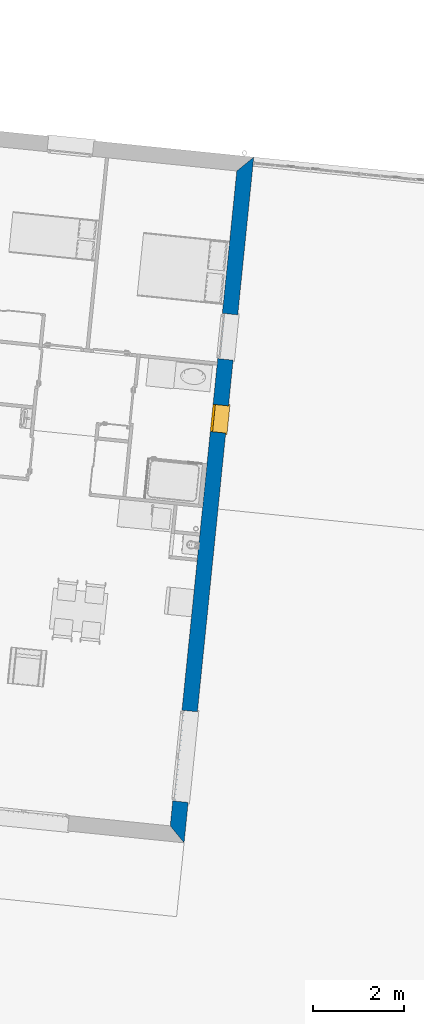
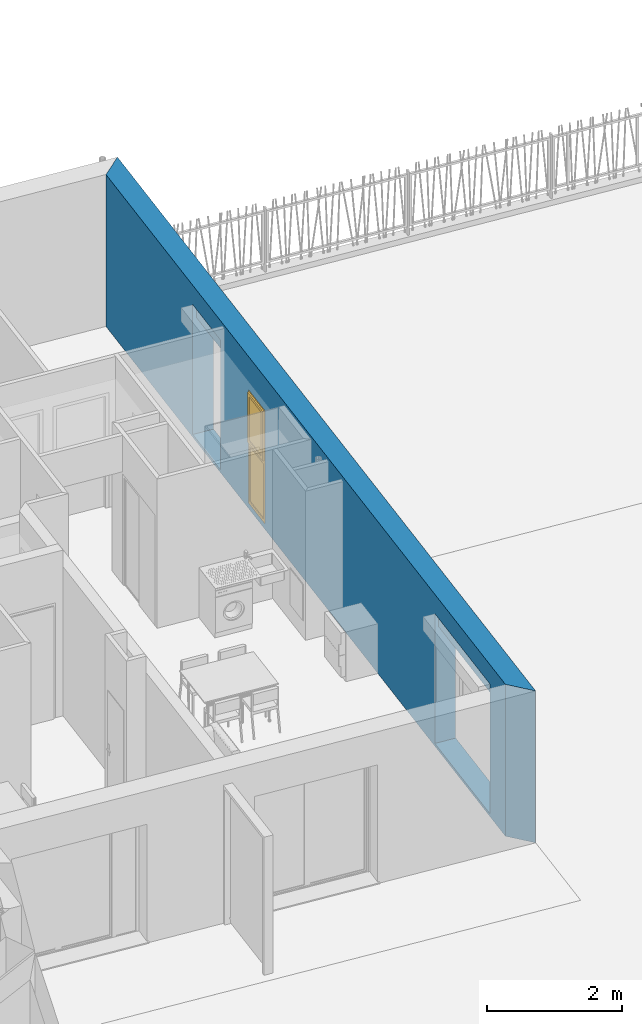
# One storey, part 76 of 171: 1 wall, 1 window, 3 openings.
"""IFC2X3 building model written with IfcOpenShell, lengths in millimetres."""

import ifcopenshell
import ifcopenshell.guid

model = None  # the IFC model being written
_history = None  # IfcOwnerHistory: only IFC2X3 demands one
_inside = {}  # id of a spatial element -> (the spatial element, [elements in it])
_under = {}  # id of a project, library or spatial element -> (it, [spatial elements below it])
_declared = {}  # id of a project -> (the project, [libraries it declares])
_typed = {}  # id of a type object -> (the type object, [elements of that type])
_made_of = {}  # id of a material, layer set ... -> (it, [elements and type objects made of it])


def new_model(schema):
    """Start an empty IFC model of exactly this schema.

    Asked for "IFC4X3", IfcOpenShell would pick the latest addendum, in which some entities
    have other attributes; the version numbers below select the first issue.
    IFC2X3 requires an IfcOwnerHistory on every rooted entity: one is made here for all.
    """
    global model, _history
    if schema == "IFC4X3":
        model = ifcopenshell.file(schema_version=(4, 3, 0, 0))
    else:
        model = ifcopenshell.file(schema=schema)
    _inside.clear()
    _under.clear()
    _declared.clear()
    _typed.clear()
    _made_of.clear()
    _history = None
    if model.schema == "IFC2X3":
        org = make("IfcOrganization", Name="unknown")
        user = make(
            "IfcPersonAndOrganization",
            ThePerson=make("IfcPerson", FamilyName="unknown"),
            TheOrganization=org,
        )
        app = make(
            "IfcApplication",
            ApplicationDeveloper=org,
            Version="unknown",
            ApplicationFullName="unknown",
            ApplicationIdentifier="unknown",
        )
        _history = make(
            "IfcOwnerHistory",
            OwningUser=user,
            OwningApplication=app,
            ChangeAction="ADDED",
            CreationDate=0,
        )
    return model


def make(cls, **values):
    """One entity of the class cls with the attributes given. An attribute that is None is left unset."""
    return model.create_entity(
        cls, **{name: value for name, value in values.items() if value is not None}
    )


def entity(cls, *values):
    """Any entity or typed value of the class cls, its attributes in the order of the schema. None: left unset."""
    e = model.create_entity(cls)
    for i, value in enumerate(values):
        if value is not None:
            e[i] = value
    return e


def rooted(cls, **values):
    """An entity with a GlobalId (a new one), such as an element, a storey or a relation."""
    return make(cls, GlobalId=ifcopenshell.guid.new(), OwnerHistory=_history, **values)


def si_unit(unit_type, name, prefix=None):
    """IfcSIUnit, for example si_unit("LENGTHUNIT", "METRE", prefix="MILLI")."""
    return make("IfcSIUnit", UnitType=unit_type, Prefix=prefix, Name=name)


def converted_unit(unit_type, name, factor, base, dimensions=None, offset=None):
    """IfcConversionBasedUnit, such as the inch: factor (a typed value) times the base unit."""
    return make(
        "IfcConversionBasedUnit"
        if offset is None
        else "IfcConversionBasedUnitWithOffset",
        ConversionOffset=offset,
        Dimensions=None
        if dimensions is None
        else entity("IfcDimensionalExponents", *dimensions),
        UnitType=unit_type,
        Name=name,
        ConversionFactor=make(
            "IfcMeasureWithUnit", ValueComponent=factor, UnitComponent=base
        ),
    )


def derived_unit(unit_type, elements):
    """IfcDerivedUnit: a product of units, each with its exponent."""
    return make(
        "IfcDerivedUnit",
        Elements=[
            make("IfcDerivedUnitElement", Unit=unit, Exponent=power)
            for unit, power in elements
        ],
        UnitType=unit_type,
    )


def money_unit(currency):
    """IfcMonetaryUnit."""
    return make("IfcMonetaryUnit", Currency=currency)


def assignment(units):
    """IfcUnitAssignment: the units of a project."""
    return None if units is None else make("IfcUnitAssignment", Units=units)


def point(xyz):
    """IfcCartesianPoint."""
    return None if xyz is None else make("IfcCartesianPoint", Coordinates=xyz)


def direction(xyz):
    """IfcDirection."""
    return None if xyz is None else make("IfcDirection", DirectionRatios=xyz)


def frame(location, z_axis=None, x_axis=None):
    """IfcAxis2Placement3D, a coordinate frame: its origin and axes. An axis left out is left unset."""
    return make(
        "IfcAxis2Placement3D",
        Location=point(location),
        Axis=direction(z_axis),
        RefDirection=direction(x_axis),
    )


def frame_2d(location, x_axis=None):
    """IfcAxis2Placement2D, a coordinate frame in the plane: its origin and x axis."""
    return make(
        "IfcAxis2Placement2D", Location=point(location), RefDirection=direction(x_axis)
    )


def origin_with_axes():
    """The frame at (0, 0, 0) with the z axis (0, 0, 1) and the x axis (1, 0, 0) written out."""
    return frame((0.0, 0.0, 0.0), z_axis=(0.0, 0.0, 1.0), x_axis=(1.0, 0.0, 0.0))


def origin_2d_with_axis():
    """The frame at (0, 0) in the plane with the x axis (1, 0) written out."""
    return frame_2d((0.0, 0.0), x_axis=(1.0, 0.0))


def place(relative_to, where):
    """IfcLocalPlacement: puts the frame where relative to a parent placement (None: the world)."""
    return make(
        "IfcLocalPlacement", PlacementRelTo=relative_to, RelativePlacement=where
    )


def context(
    kind, dimensions, precision=None, world=None, true_north=None, identifier=None
):
    """IfcGeometricRepresentationContext, for example the 3D "Model" context."""
    return make(
        "IfcGeometricRepresentationContext",
        ContextIdentifier=identifier,
        ContextType=kind,
        CoordinateSpaceDimension=dimensions,
        Precision=precision,
        WorldCoordinateSystem=world,
        TrueNorth=true_north,
    )


def subcontext(parent, identifier, kind, view, scale=None):
    """IfcGeometricRepresentationSubContext, for example "Body" below "Model"."""
    return make(
        "IfcGeometricRepresentationSubContext",
        ContextIdentifier=identifier,
        ContextType=kind,
        ParentContext=parent,
        TargetScale=scale,
        TargetView=view,
    )


def project(units=None, contexts=None):
    """IfcProject with its units and contexts."""
    return rooted(
        "IfcProject",
        Name="project",
        RepresentationContexts=contexts,
        UnitsInContext=assignment(units),
    )


def spatial(cls, under=None, at=None, **own):
    """A site, building, storey or space (cls), placed at a placement, below another one or the project."""
    s = rooted(cls, ObjectPlacement=at, **own)
    if under is not None:
        _under.setdefault(under.id(), (under, []))[1].append(s)
    return s


def polyline(points):
    """IfcPolyline through the points."""
    return make("IfcPolyline", Points=[point(p) for p in points])


def profile(cls, at=None, kind="AREA", **sizes):
    """A parametric profile (cls). Its sizes go by their IFC names, for example OverallWidth=200.0."""
    return make(cls, ProfileType=kind, Position=at, **sizes)


def rectangle(**sizes):
    """IfcRectangleProfileDef."""
    return profile("IfcRectangleProfileDef", **sizes)


def outline(outer, holes=None, kind="AREA"):
    """IfcArbitraryClosedProfileDef: a profile drawn as a closed curve; with holes, ...WithVoids."""
    if holes is None:
        return make("IfcArbitraryClosedProfileDef", ProfileType=kind, OuterCurve=outer)
    return make(
        "IfcArbitraryProfileDefWithVoids",
        ProfileType=kind,
        OuterCurve=outer,
        InnerCurves=holes,
    )


def extrude(swept, where, along, depth):
    """IfcExtrudedAreaSolid: the profile swept, set in the frame where, extruded along a direction by depth."""
    return make(
        "IfcExtrudedAreaSolid",
        SweptArea=swept,
        Position=where,
        ExtrudedDirection=direction(along),
        Depth=depth,
    )


def faces_of(points, faces, orient=None, outer=None):
    """IfcFace entities. A face is a list of loops; a loop is a list of indices into points, from 0.

    orient and outer hold one flag for each loop. By default every Orientation is true, the
    first loop of a face is its IfcFaceOuterBound and the others are IfcFaceBound.
    """
    made = []
    for i, loops in enumerate(faces):
        bounds = []
        for j, loop in enumerate(loops):
            is_outer = j == 0 if outer is None else outer[i][j]
            bounds.append(
                make(
                    "IfcFaceOuterBound" if is_outer else "IfcFaceBound",
                    Bound=make("IfcPolyLoop", Polygon=[points[k] for k in loop]),
                    Orientation=True if orient is None else orient[i][j],
                )
            )
        made.append(make("IfcFace", Bounds=bounds))
    return made


def open_shell(faces, orient=None, outer=None):
    """The faces of one IfcOpenShell. surface_model builds it on its shared points."""
    return ("IfcOpenShell", faces, orient, outer)


def faceted_brep(points, faces, orient=None, outer=None, voids=None):
    """IfcFacetedBrep: a solid bounded by flat faces; with voids (closed shells), ...WithVoids."""
    shared = [point(p) for p in points]
    hull = make("IfcClosedShell", CfsFaces=faces_of(shared, faces, orient, outer))
    if voids is None:
        return make("IfcFacetedBrep", Outer=hull)
    return make(
        "IfcFacetedBrepWithVoids",
        Outer=hull,
        Voids=[
            make(cls, CfsFaces=faces_of(shared, fs, o, b)) for cls, fs, o, b in voids
        ],
    )


def surface_model(cls, points, shells):
    """IfcFaceBasedSurfaceModel or IfcShellBasedSurfaceModel (cls): surfaces that need not close."""
    shared = [point(p) for p in points]
    made = [make(c, CfsFaces=faces_of(shared, fs, o, b)) for c, fs, o, b in shells]
    if cls == "IfcFaceBasedSurfaceModel":
        return make(cls, FbsmFaces=made)
    return make(cls, SbsmBoundary=made)


def shape(context_of_items, identifier, shape_type, items):
    """IfcShapeRepresentation: the items that make up one representation, for example the "Body"."""
    return make(
        "IfcShapeRepresentation",
        ContextOfItems=context_of_items,
        RepresentationIdentifier=identifier,
        RepresentationType=shape_type,
        Items=items,
    )


def source(mapping_origin, context_of_items, identifier, shape_type, items):
    """IfcRepresentationMap: a shape defined once, which mapped items show again and again."""
    return make(
        "IfcRepresentationMap",
        MappingOrigin=mapping_origin,
        MappedRepresentation=shape(context_of_items, identifier, shape_type, items),
    )


def transform(
    local_origin,
    x_axis=None,
    y_axis=None,
    z_axis=None,
    scale=None,
    scale2=None,
    scale3=None,
    uniform=True,
):
    """IfcCartesianTransformationOperator3D, or its non-uniform kind. x_axis, y_axis, z_axis: its Axis1, 2, 3."""
    if uniform:
        return make(
            "IfcCartesianTransformationOperator3D",
            Axis1=direction(x_axis),
            Axis2=direction(y_axis),
            LocalOrigin=point(local_origin),
            Scale=scale,
            Axis3=direction(z_axis),
        )
    return make(
        "IfcCartesianTransformationOperator3DnonUniform",
        Axis1=direction(x_axis),
        Axis2=direction(y_axis),
        LocalOrigin=point(local_origin),
        Scale=scale,
        Axis3=direction(z_axis),
        Scale2=scale2,
        Scale3=scale3,
    )


def mapped(mapping_source, mapping_target):
    """IfcMappedItem: shows the shape of a source again, moved by a transform."""
    return make(
        "IfcMappedItem", MappingSource=mapping_source, MappingTarget=mapping_target
    )


def material(Name=None, Category=None):
    """IfcMaterial."""
    return make("IfcMaterial", Name=Name, Category=Category)


def layer(
    of_material, thickness, ventilated=None, Name=None, Category=None, Priority=None
):
    """IfcMaterialLayer: one layer of a wall or slab, of a material (None: an air gap)."""
    return make(
        "IfcMaterialLayer",
        Material=of_material,
        LayerThickness=thickness,
        IsVentilated=ventilated,
        Name=Name,
        Category=Category,
        Priority=Priority,
    )


def layer_set(layers, Name=None):
    """IfcMaterialLayerSet."""
    return make("IfcMaterialLayerSet", MaterialLayers=layers, LayerSetName=Name)


def layer_usage(for_layer_set, set_direction, sense, offset, extent=None):
    """IfcMaterialLayerSetUsage: how a layer set lies in its element."""
    return make(
        "IfcMaterialLayerSetUsage",
        ForLayerSet=for_layer_set,
        LayerSetDirection=set_direction,
        DirectionSense=sense,
        OffsetFromReferenceLine=offset,
        ReferenceExtent=extent,
    )


def made_of(thing, what):
    """Note that an element or type object is made of a material, layer set ...; save() writes the relation."""
    if what is not None:
        _made_of.setdefault(what.id(), (what, []))[1].append(thing)
    return thing


def type_object(cls, material=None, **own):
    """A type object (cls), such as IfcWallType, which elements share."""
    return made_of(rooted(cls, **own), material)


def element(
    cls,
    number,
    at=None,
    inside=None,
    cuts=None,
    type_object=None,
    material=None,
    context=None,
    identifier="Body",
    shape_type=None,
    held_by="IfcProductDefinitionShape",
    body=None,
    shapes=None,
    **own,
):
    """One element of the class cls, such as IfcWall. Its Tag is "e" and its number.

    at: its placement. inside: the storey or other place that contains it. cuts: it is an
    opening in that element (IfcRelVoidsElement). A single representation is given by context,
    identifier, shape_type and body (its items); several are given by shapes. held_by: the class
    of the entity that holds the representations. save() writes the other relations.
    """
    e = rooted(cls, Tag="e%d" % number, ObjectPlacement=at, **own)
    if body is not None:
        shapes = [shape(context, identifier, shape_type, body)]
    if shapes is not None:
        e.Representation = make(held_by, Representations=shapes)
    if inside is not None:
        _inside.setdefault(inside.id(), (inside, []))[1].append(e)
    if cuts is not None:
        rooted(
            "IfcRelVoidsElement", RelatingBuildingElement=cuts, RelatedOpeningElement=e
        )
    if type_object is not None:
        _typed.setdefault(type_object.id(), (type_object, []))[1].append(e)
    return made_of(e, material)


def fill(opening, filler):
    """IfcRelFillsElement: the door or window that sits in an opening."""
    return rooted(
        "IfcRelFillsElement",
        RelatingOpeningElement=opening,
        RelatedBuildingElement=filler,
    )


def aggregate(whole, parts):
    """IfcRelAggregates: a whole, such as a stair, and the parts it consists of."""
    return rooted("IfcRelAggregates", RelatingObject=whole, RelatedObjects=parts)


def save(model, path):
    """Write the relations noted so far, then the file.

    IfcRelAggregates (storeys below a building ...), IfcRelContainedInSpatialStructure (elements
    in a storey), IfcRelDefinesByType, IfcRelAssociatesMaterial and IfcRelDeclares: one each for
    every whole, place, type object, material and project.
    """
    for whole, parts in _under.values():
        aggregate(whole, parts)
    for where, things in _inside.values():
        rooted(
            "IfcRelContainedInSpatialStructure",
            RelatedElements=things,
            RelatingStructure=where,
        )
    for kind, things in _typed.values():
        rooted("IfcRelDefinesByType", RelatedObjects=things, RelatingType=kind)
    for what, things in _made_of.values():
        rooted("IfcRelAssociatesMaterial", RelatedObjects=things, RelatingMaterial=what)
    for by, libraries in _declared.values():
        rooted("IfcRelDeclares", RelatingContext=by, RelatedDefinitions=libraries)
    model.write(path)


model = new_model("IFC2X3")

# Units and contexts
model_context = context("Model", 3, precision=0.01, world=origin_with_axes(), true_north=direction((0.0, 1.0)))
body_context = subcontext(model_context, "Body", "Model", "MODEL_VIEW")
ifc_project = project(units=[si_unit("LENGTHUNIT", "METRE", prefix="MILLI"), si_unit("AREAUNIT", "SQUARE_METRE"), si_unit("VOLUMEUNIT", "CUBIC_METRE"), converted_unit("PLANEANGLEUNIT", "DEGREE", entity("IfcPlaneAngleMeasure", 0.0174532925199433), si_unit("PLANEANGLEUNIT", "RADIAN"), dimensions=[0, 0, 0, 0, 0, 0, 0]), money_unit("USD"), converted_unit("TIMEUNIT", "Year", entity("IfcTimeMeasure", 31557600.0), si_unit("TIMEUNIT", "SECOND"), dimensions=[0, 0, 1, 0, 0, 0, 0]), si_unit("MASSUNIT", "GRAM", prefix="KILO"), si_unit("THERMODYNAMICTEMPERATUREUNIT", "DEGREE_CELSIUS"), si_unit("LUMINOUSINTENSITYUNIT", "LUMEN"), si_unit("ENERGYUNIT", "JOULE", prefix="MEGA"), derived_unit("THERMALCONDUCTANCEUNIT", [(si_unit("POWERUNIT", "WATT"), 1), (si_unit("LENGTHUNIT", "METRE"), -1), (si_unit("THERMODYNAMICTEMPERATUREUNIT", "KELVIN"), -1)]), derived_unit("SPECIFICHEATCAPACITYUNIT", [(si_unit("ENERGYUNIT", "JOULE"), 1), (si_unit("MASSUNIT", "GRAM", prefix="KILO"), -1), (si_unit("THERMODYNAMICTEMPERATUREUNIT", "KELVIN"), -1)]), derived_unit("MASSDENSITYUNIT", [(si_unit("MASSUNIT", "GRAM", prefix="KILO"), 1), (si_unit("VOLUMEUNIT", "CUBIC_METRE"), -1)])], contexts=[model_context])

# Site, building, storey
site_placement = place(None, origin_with_axes())
site = spatial("IfcSite", under=ifc_project, at=site_placement, Name="Site", CompositionType="ELEMENT")
building_placement = place(site_placement, origin_with_axes())
building = spatial("IfcBuilding", under=site, at=building_placement, Name="Bâtiment", CompositionType="ELEMENT")
storey_placement = place(building_placement, frame((0.0, 0.0, 3000.0), z_axis=(0.0, 0.0, 1.0), x_axis=(1.0, 0.0, 0.0)))
storey = spatial("IfcBuildingStorey", under=building, at=storey_placement, Name="rdc", CompositionType="ELEMENT", Elevation=3000.0)

# Wall, openings, window
ifc_material_1 = material(Name="Parpaing 312445824")
ifc_layer_1 = layer(ifc_material_1, 180.0, ventilated="UNKNOWN")
ifc_material_2 = material(Name="Isolant styromousse 301821074")
ifc_layer_2 = layer(ifc_material_2, 160.0, ventilated="UNKNOWN")
ifc_layer_set = layer_set([ifc_layer_1, ifc_layer_2], Name="isol int 18+16 0018356637")
ifc_layer_usage = layer_usage(ifc_layer_set, "AXIS2", "NEGATIVE", 0.0)
wall_type = type_object("IfcWallType", Name="isol int 18+16 0018356637 340", PredefinedType="NOTDEFINED")
wall_placement = place(storey_placement, frame((2240182.946874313, -606236.1516955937, 0.0), z_axis=(0.0, 0.0, 1.0), x_axis=(-0.1011032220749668, -0.9948759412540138, 0.0)))
wall = element("IfcWallStandardCase", 1, at=wall_placement, inside=storey, type_object=wall_type, material=ifc_layer_usage, Name="Mur-142", context=body_context, shape_type="SweptSolid", body=[
    extrude(outline(polyline([(339.9999999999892, -340.0000000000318), (14791.61370310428, -340.0000000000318), (15131.61370310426, -1.13686837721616e-10), (0.0, 0.0), (339.9999999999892, -340.0000000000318)])), origin_with_axes(), (0.0, 0.0, 1.0), 2750.0),
])
opening_1_placement = place(wall_placement, frame((13239.30937232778, -3.410605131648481e-10, 49.99999999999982), z_axis=(0.0, 0.0, 1.0), x_axis=(1.0, 0.0, 0.0)))
element("IfcOpeningElement", 2, at=opening_1_placement, cuts=wall, Name="Fen-207", context=body_context, shape_type="Brep", body=[
    faceted_brep([(-999.999999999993, -289.9999999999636, 2100.0), (-999.999999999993, -279.9999999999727, 2100.0), (-1000.0, 1523.015834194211, 2100.0), (-1000.0, 1523.015834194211, 0.0), (-999.9999999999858, -289.9999999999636, 0.0), (-999.9999999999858, -529.9999999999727, 2100.0), (-999.9999999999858, -529.9999999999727, 2350.0), (-999.999999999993, -279.9999999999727, 2350.0), (1000.0, -279.999999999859, 2100.0), (1000.000000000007, 1523.015834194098, 2100.0), (1000.000000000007, 1523.015834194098, 0.0), (1000.000000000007, -289.9999999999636, 0.0), (999.999999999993, -1863.015834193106, 0.0), (-999.999999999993, -1863.01583419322, 0.0), (-999.999999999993, -1863.01583419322, 2100.0), (1000.000000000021, -529.999999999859, 2100.0), (1000.000000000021, -529.999999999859, 2350.0), (1000.0, -279.999999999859, 2350.0), (1000.000000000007, -289.9999999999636, 2100.0), (999.999999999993, -1863.015834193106, 2100.0)], [[[0, 1, 2, 3, 4]], [[1, 0, 5, 6, 7]], [[1, 8, 9, 2]], [[9, 10, 3, 2]], [[4, 3, 10, 11, 12, 13]], [[5, 0, 4, 13, 14]], [[5, 15, 16, 6]], [[16, 17, 7, 6]], [[8, 1, 7, 17]], [[8, 18, 11, 10, 9]], [[18, 15, 19, 12, 11]], [[14, 13, 12, 19]], [[15, 5, 14, 19]], [[18, 8, 17, 16, 15]]]),
])
opening_2_placement = place(wall_placement, frame((3980.394196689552, -2.273736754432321e-10, 49.99999999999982), z_axis=(0.0, 0.0, 1.0), x_axis=(1.0, 0.0, 0.0)))
element("IfcOpeningElement", 3, at=opening_2_placement, cuts=wall, Name="Fen-133", context=body_context, shape_type="Brep", body=[
    faceted_brep([(-500.0000000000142, -290.0000000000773, 2100.0), (-500.0000000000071, -279.9999999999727, 2100.0), (-499.9999999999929, 1523.015834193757, 2100.0), (-499.9999999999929, 1523.015834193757, 0.0), (-500.0, -290.0000000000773, 0.0), (-499.9999999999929, -529.9999999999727, 2100.0), (-499.9999999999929, -529.9999999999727, 2350.0), (-500.0000000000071, -279.9999999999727, 2350.0), (500.0, -279.9999999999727, 2100.0), (500.0, 1523.01583419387, 2100.0), (500.0, 1523.01583419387, 0.0), (499.9999999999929, -290.0000000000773, 0.0), (499.9999999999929, -1863.01583419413, 0.0), (-499.9999999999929, -1863.01583419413, 0.0), (-499.9999999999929, -1863.01583419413, 2100.0), (499.9999999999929, -529.9999999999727, 2100.0), (499.9999999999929, -529.9999999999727, 2350.0), (500.0, -279.9999999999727, 2350.0), (499.9999999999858, -290.0000000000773, 2100.0), (499.9999999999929, -1863.01583419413, 2100.0)], [[[0, 1, 2, 3, 4]], [[1, 0, 5, 6, 7]], [[1, 8, 9, 2]], [[9, 10, 3, 2]], [[4, 3, 10, 11, 12, 13]], [[5, 0, 4, 13, 14]], [[5, 15, 16, 6]], [[16, 17, 7, 6]], [[8, 1, 7, 17]], [[8, 18, 11, 10, 9]], [[18, 15, 19, 12, 11]], [[14, 13, 12, 19]], [[15, 5, 14, 19]], [[18, 8, 17, 16, 15]]]),
])
opening_3_placement = place(wall_placement, frame((5788.845141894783, -3.410605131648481e-10, 100.0000000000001), z_axis=(0.0, 0.0, 1.0), x_axis=(1.0, 0.0, 0.0)))
opening_3 = element("IfcOpeningElement", 4, at=opening_3_placement, cuts=wall, Name="Fen-133", context=body_context, shape_type="SweptSolid", body=[
    extrude(rectangle(XDim=600.0000000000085, YDim=2050.0, at=origin_2d_with_axis()), frame((0.0, -290.0000000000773, 1025.0), z_axis=(0.0, -1.0, 0.0), x_axis=(-1.0, 0.0, 0.0)), (0.0, 0.0, -1.0), 629.9999999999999),
    extrude(rectangle(XDim=600.0000000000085, YDim=2050.0, at=origin_2d_with_axis()), frame((0.0, -290.0000000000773, 1025.0), z_axis=(0.0, 1.0, 0.0), x_axis=(-1.0, 0.0, 0.0)), (0.0, 0.0, -1.0), 389.9999999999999),
])
window_style = type_object("IfcWindowStyle", Name="Fenêtre 27", ConstructionType="NOTDEFINED", OperationType="DOUBLE_PANEL_HORIZONTAL", ParameterTakesPrecedence=False, Sizeable=False)
shared_shape = source(origin_with_axes(), body_context, "Body", "SurfaceModel", [
    surface_model("IfcShellBasedSurfaceModel", [(300.0, -51.00000000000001, 40.00000000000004), (300.0, -51.00000000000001, 50.00000000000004), (-300.0, -51.00000000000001, 50.0), (-300.0, -51.00000000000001, 40.0), (329.9999999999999, -369.9999999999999, 28.96551724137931), (329.9999999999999, -339.9999999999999, 30.00324289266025), (300.0, -339.9999999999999, 30.00324289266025), (-300.0, -339.9999999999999, 30.00324289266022), (-329.9999999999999, -339.9999999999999, 30.00324289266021), (-329.9999999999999, -369.9999999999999, 28.96551724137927), (329.9999999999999, -369.9999999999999, 8.965517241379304), (-329.9999999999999, -369.9999999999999, 8.965517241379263), (329.9999999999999, -359.9999999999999, 18.96551724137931), (-329.9999999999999, -359.9999999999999, 18.96551724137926)], [open_shell([[[0, 1, 2, 3]], [[4, 5, 6, 0, 3, 7, 8, 9]], [[10, 4, 9, 11]], [[12, 10, 11, 13]]])]),
    faceted_brep([(-275.0, 0.0, 2000.0), (-300.0, 0.0, 2000.0), (-300.0, -50.00000000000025, 2000.0), (-250.0, -50.00000000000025, 2000.0), (-250.0, -25.00000000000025, 2000.0), (-275.0, -25.00000000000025, 2000.0), (-275.0, 0.0, 1125.0), (-250.0, 0.0, 1125.0), (-250.0, 0.0, 1050.0), (-250.0, 0.0, 50.00000000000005), (-300.0, 0.0, 50.00000000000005), (-300.0, -50.00000000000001, 50.00000000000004), (-250.0, -50.00000000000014, 1150.0), (-250.0, -50.00000000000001, 50.00000000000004), (-250.0, -50.00000000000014, 1050.0), (-250.0, -25.00000000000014, 1150.0), (-250.0, -25.00000000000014, 1125.0), (-275.0, -25.00000000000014, 1125.0)], [[[0, 1, 2, 3, 4, 5]], [[6, 7, 8, 9, 10, 1, 0]], [[1, 10, 11, 2]], [[12, 3, 2, 11, 13, 14]], [[4, 3, 12, 15]], [[15, 16, 17, 5, 4]], [[5, 17, 6, 0]], [[6, 17, 16, 7]], [[16, 15, 12, 14, 8, 7]], [[9, 8, 14, 13]], [[10, 9, 13, 11]]]),
    faceted_brep([(250.0, -25.00000000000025, 2000.0), (250.0, -50.00000000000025, 2000.0), (300.0, -50.00000000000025, 2000.0), (300.0, 0.0, 2000.0), (275.0, 0.0, 2000.0), (275.0, -25.00000000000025, 2000.0), (250.0, -25.00000000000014, 1150.0), (250.0, -50.00000000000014, 1150.0), (300.0, -50.00000000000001, 50.00000000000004), (250.0, -50.00000000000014, 1050.0), (250.0, -50.00000000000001, 50.00000000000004), (300.0, 0.0, 50.00000000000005), (275.0, 0.0, 1125.0), (250.0, 0.0, 50.00000000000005), (250.0, 0.0, 1050.0), (250.0, 0.0, 1125.0), (275.0, -25.00000000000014, 1125.0), (250.0, -25.00000000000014, 1125.0)], [[[0, 1, 2, 3, 4, 5]], [[6, 7, 1, 0]], [[8, 2, 1, 7, 9, 10]], [[11, 3, 2, 8]], [[12, 4, 3, 11, 13, 14, 15]], [[12, 16, 5, 4]], [[5, 16, 17, 6, 0]], [[17, 15, 14, 9, 7, 6]], [[14, 13, 10, 9]], [[13, 11, 8, 10]], [[15, 17, 16, 12]]]),
    faceted_brep([(-250.0, -25.00000000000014, 1150.0), (-250.0, -50.00000000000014, 1150.0), (250.0, -50.00000000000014, 1150.0), (250.0, -25.00000000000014, 1150.0), (-250.0, -25.00000000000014, 1125.0), (-250.0, 0.0, 1125.0), (-250.0, 0.0, 1050.0), (-250.0, -50.00000000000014, 1050.0), (250.0, -50.00000000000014, 1050.0), (250.0, -25.00000000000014, 1125.0), (250.0, 0.0, 1050.0), (250.0, 0.0, 1125.0)], [[[0, 1, 2, 3]], [[4, 5, 6, 7, 1, 0]], [[8, 2, 1, 7]], [[9, 3, 2, 8, 10, 11]], [[9, 4, 0, 3]], [[5, 4, 9, 11]], [[11, 10, 6, 5]], [[6, 10, 8, 7]]]),
    faceted_brep([(-275.0, 0.0, 2000.0), (-300.0, 0.0, 2000.0), (-300.0, 0.0, 2050.0), (300.0, 0.0, 2050.0), (300.0, 0.0, 2000.0), (275.0, 0.0, 2000.0), (275.0, 0.0, 2025.0), (-275.0, 0.0, 2025.0), (-275.0, -25.00000000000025, 2000.0), (-250.0, -25.00000000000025, 2000.0), (-250.0, -50.00000000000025, 2000.0), (-300.0, -50.00000000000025, 2000.0), (-300.0, -50.00000000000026, 2050.0), (300.0, -50.00000000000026, 2050.0), (300.0, -50.00000000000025, 2000.0), (275.0, -25.00000000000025, 2000.0), (250.0, -50.00000000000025, 2000.0), (250.0, -25.00000000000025, 2000.0), (275.0, -25.00000000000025, 2025.0), (-275.0, -25.00000000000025, 2025.0)], [[[0, 1, 2, 3, 4, 5, 6, 7]], [[8, 9, 10, 11, 1, 0]], [[2, 1, 11, 12]], [[3, 2, 12, 13]], [[4, 3, 13, 14]], [[15, 5, 4, 14, 16, 17]], [[5, 15, 18, 6]], [[6, 18, 19, 7]], [[7, 19, 8, 0]], [[17, 9, 8, 19, 18, 15]], [[17, 16, 10, 9]], [[14, 13, 12, 11, 10, 16]]]),
    faceted_brep([(-250.0, -50.00000000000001, 50.0), (-250.0, 0.0, 50.00000000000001), (-300.0, 0.0, 50.00000000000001), (-300.0, -50.00000000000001, 50.0), (250.0, -50.00000000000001, 50.0), (250.0, 0.0, 50.00000000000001), (300.0, 0.0, 50.00000000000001), (300.0, 0.0, 0.0), (-300.0, 0.0, 0.0), (-300.0, -50.0, 0.0), (300.0, -50.0, 0.0), (300.0, -50.00000000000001, 50.0)], [[[0, 1, 2, 3]], [[4, 5, 1, 0]], [[1, 5, 6, 7, 8, 2]], [[3, 2, 8, 9]], [[0, 3, 9, 10, 11, 4]], [[11, 6, 5, 4]], [[10, 7, 6, 11]], [[9, 8, 7, 10]]]),
    faceted_brep([(-225.0, -25.00000000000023, 1975.0), (-225.0, 24.99999999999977, 1975.0), (-275.0, 24.99999999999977, 1975.0), (-275.0, -25.00000000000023, 1975.0), (-225.0, -25.00000000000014, 1175.0), (-225.0, 24.99999999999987, 1175.0), (-275.0, 24.99999999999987, 1175.0), (-275.0, -25.00000000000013, 1175.0)], [[[0, 1, 2, 3]], [[4, 5, 1, 0]], [[1, 5, 6, 2]], [[3, 2, 6, 7]], [[0, 3, 7, 4]], [[7, 6, 5, 4]]]),
    faceted_brep([(225.0, -25.00000000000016, 1175.0), (225.0, 24.99999999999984, 1175.0), (275.0, 24.99999999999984, 1175.0), (275.0, -25.00000000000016, 1175.0), (225.0, -25.00000000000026, 1975.0), (225.0, 24.99999999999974, 1975.0), (275.0, 24.99999999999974, 1975.0), (275.0, -25.00000000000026, 1975.0)], [[[0, 1, 2, 3]], [[4, 5, 1, 0]], [[1, 5, 6, 2]], [[3, 2, 6, 7]], [[0, 3, 7, 4]], [[7, 6, 5, 4]]]),
    faceted_brep([(275.0, -25.00000000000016, 1125.0), (275.0, 24.99999999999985, 1125.0), (275.0, 24.99999999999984, 1175.0), (275.0, -25.00000000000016, 1175.0), (-275.0, -25.00000000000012, 1125.0), (-275.0, 24.99999999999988, 1125.0), (-275.0, 24.99999999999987, 1175.0), (-225.0, 24.99999999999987, 1175.0), (225.0, 24.99999999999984, 1175.0), (225.0, -25.00000000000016, 1175.0), (-225.0, -25.00000000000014, 1175.0), (-275.0, -25.00000000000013, 1175.0)], [[[0, 1, 2, 3]], [[4, 5, 1, 0]], [[1, 5, 6, 7, 8, 2]], [[3, 2, 8, 9]], [[0, 3, 9, 10, 11, 4]], [[11, 6, 5, 4]], [[10, 7, 6, 11]], [[9, 8, 7, 10]]]),
    faceted_brep([(-275.0, -25.00000000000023, 2025.0), (-275.0, 24.99999999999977, 2025.0), (-275.0, 24.99999999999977, 1975.0), (-275.0, -25.00000000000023, 1975.0), (275.0, -25.00000000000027, 2025.0), (275.0, 24.99999999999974, 2025.0), (275.0, 24.99999999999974, 1975.0), (225.0, 24.99999999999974, 1975.0), (-225.0, 24.99999999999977, 1975.0), (-225.0, -25.00000000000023, 1975.0), (225.0, -25.00000000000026, 1975.0), (275.0, -25.00000000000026, 1975.0)], [[[0, 1, 2, 3]], [[4, 5, 1, 0]], [[1, 5, 6, 7, 8, 2]], [[3, 2, 8, 9]], [[0, 3, 9, 10, 11, 4]], [[11, 6, 5, 4]], [[10, 7, 6, 11]], [[9, 8, 7, 10]]]),
    surface_model("IfcShellBasedSurfaceModel", [(-225.0, -10.00000000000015, 1175.0), (225.0, -10.00000000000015, 1175.0), (225.0, -10.00000000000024, 1975.0), (-225.0, -10.00000000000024, 1975.0)], [open_shell([[[0, 1, 2, 3]]])]),
    surface_model("IfcShellBasedSurfaceModel", [(-225.0, 9.999999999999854, 1175.0), (-225.0, 9.999999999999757, 1975.0), (225.0, 9.999999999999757, 1975.0), (225.0, 9.999999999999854, 1175.0)], [open_shell([[[0, 1, 2, 3]]])]),
    surface_model("IfcShellBasedSurfaceModel", [(-250.0, -35.0, 49.99999999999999), (250.0, -35.0, 49.99999999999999), (250.0, -35.00000000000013, 1050.0), (-250.0, -35.00000000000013, 1050.0)], [open_shell([[[0, 1, 2, 3]]])]),
    surface_model("IfcShellBasedSurfaceModel", [(-250.0, -15.0, 49.99999999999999), (-250.0, -15.00000000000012, 1050.0), (250.0, -15.00000000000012, 1050.0), (250.0, -15.0, 49.99999999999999)], [open_shell([[[0, 1, 2, 3]]])]),
])
window_placement = place(opening_3_placement, frame((300.0000000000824, -1.13686837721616e-10, 0.0), z_axis=(0.0, 0.0, 1.0), x_axis=(-1.0, 0.0, 0.0)))
window = element("IfcWindow", 5, at=window_placement, inside=storey, type_object=window_style, Name="Fen-133", OverallHeight=2050.0, OverallWidth=600.0, context=body_context, shape_type="MappedRepresentation", body=[
    mapped(shared_shape, transform((300.0000000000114, 340.0000000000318, 0.0))),
])
fill(opening_3, window)

save(model, "model.ifc")
